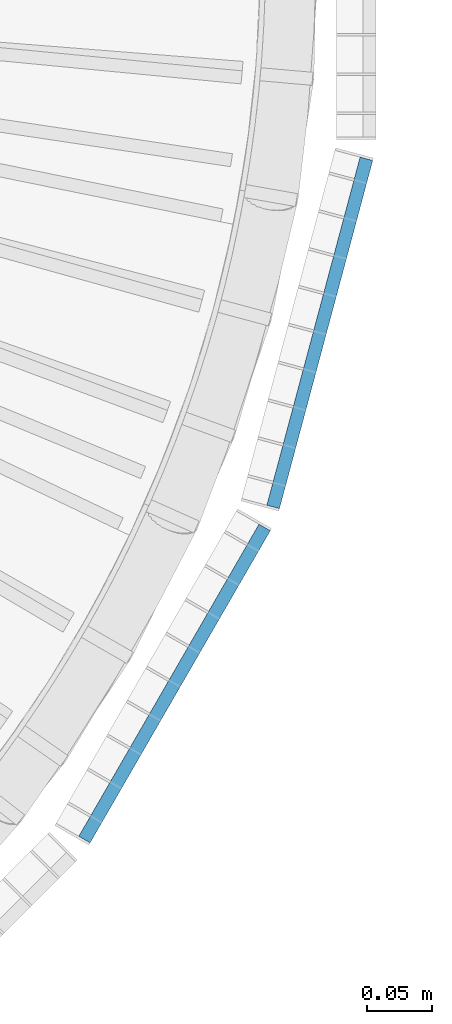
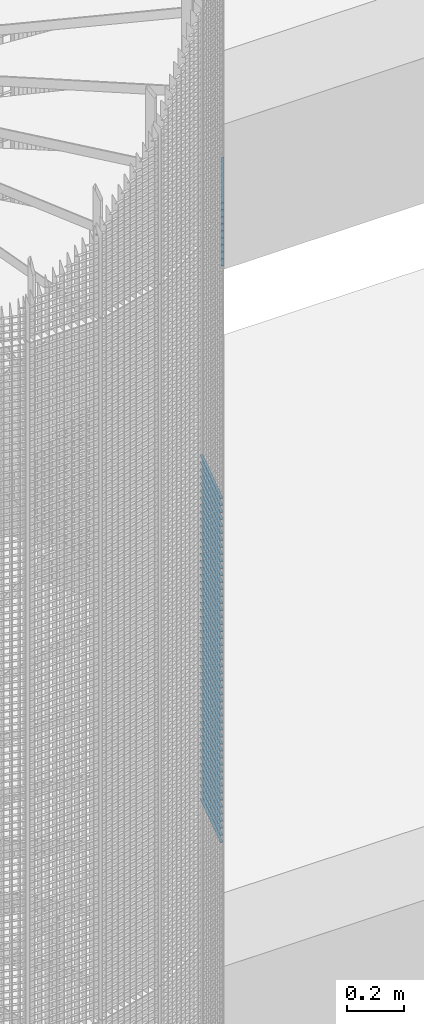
# One storey, part 234 of 1148: 60 beams, 2 elements without a shape of their own.
"""IFC2X3 building model written with IfcOpenShell, lengths in millimetres."""

from ifc_helpers import new_model, si_unit, frame, origin_with_axes, origin_2d_with_axis, place, context, subcontext, project, spatial, rectangle, extrude, material, type_object, element, aggregate, save


model = new_model("IFC2X3")

# Units and contexts
model_context = context("Model", 3, precision=1e-05, world=origin_with_axes())
body_context = subcontext(model_context, "Body", "Model", "MODEL_VIEW")
ifc_project = project(units=[si_unit("LENGTHUNIT", "METRE", prefix="MILLI"), si_unit("AREAUNIT", "SQUARE_METRE"), si_unit("VOLUMEUNIT", "CUBIC_METRE"), si_unit("MASSUNIT", "GRAM", prefix="KILO"), si_unit("TIMEUNIT", "SECOND"), si_unit("PLANEANGLEUNIT", "RADIAN"), si_unit("SOLIDANGLEUNIT", "STERADIAN"), si_unit("THERMODYNAMICTEMPERATUREUNIT", "DEGREE_CELSIUS"), si_unit("LUMINOUSINTENSITYUNIT", "LUMEN")], contexts=[model_context])

# Site, building, storey
site_placement = place(None, origin_with_axes())
site = spatial("IfcSite", under=ifc_project, at=site_placement, Name="Undefined", CompositionType="ELEMENT")
building_placement = place(site_placement, origin_with_axes())
building = spatial("IfcBuilding", under=site, at=building_placement, Name="Undefined", CompositionType="ELEMENT")
storey_placement = place(building_placement, origin_with_axes())
storey = spatial("IfcBuildingStorey", under=building, at=storey_placement, Name="Undefined", CompositionType="ELEMENT", Elevation=0.0)

# Assembly, beams
assembly_1_placement = place(storey_placement, origin_with_axes())
assembly_1 = element("IfcElementAssembly", 1, at=assembly_1_placement, inside=storey, Name="BORDURE", AssemblyPlace="NOTDEFINED", PredefinedType="NOTDEFINED")
ifc_material = material(Name="STEEL/S235JR")
beam_type = type_object("IfcBeamType", Name="PL2*10", PredefinedType="NOTDEFINED")
beam_1_placement = place(assembly_1_placement, frame((1039.82309522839, -421.483733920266, 10500.0), z_axis=(0.965925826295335, -0.258819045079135, 0.0), x_axis=(0.258819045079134, 0.965925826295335, 0.0)))
beam_1 = element("IfcBeam", 2, at=beam_1_placement, type_object=beam_type, material=ifc_material, Name="ENTRETOISE", context=body_context, shape_type="SweptSolid", body=[
    extrude(rectangle(XDim=2.0, YDim=10.0, at=origin_2d_with_axis()), frame((275.999999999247, 9.09494701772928e-13, 1.53210777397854e-14), z_axis=(-1.0, 0.0, 0.0), x_axis=(0.0, -1.0, 0.0)), (0.0, 0.0, 1.0), 276.0),
])
beam_2_placement = place(assembly_1_placement, frame((1039.82309522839, -421.483733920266, 10470.0), z_axis=(0.965925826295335, -0.258819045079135, 0.0), x_axis=(0.258819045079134, 0.965925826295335, 0.0)))
beam_2 = element("IfcBeam", 3, at=beam_2_placement, type_object=beam_type, material=ifc_material, Name="ENTRETOISE", context=body_context, shape_type="SweptSolid", body=[
    extrude(rectangle(XDim=2.0, YDim=10.0, at=origin_2d_with_axis()), frame((275.999999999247, 9.09494701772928e-13, 1.53210777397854e-14), z_axis=(-1.0, 0.0, 0.0), x_axis=(0.0, -1.0, 0.0)), (0.0, 0.0, 1.0), 276.0),
])
beam_3_placement = place(assembly_1_placement, frame((1039.82309522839, -421.483733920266, 10440.0), z_axis=(0.965925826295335, -0.258819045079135, 0.0), x_axis=(0.258819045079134, 0.965925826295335, 0.0)))
beam_3 = element("IfcBeam", 4, at=beam_3_placement, type_object=beam_type, material=ifc_material, Name="ENTRETOISE", context=body_context, shape_type="SweptSolid", body=[
    extrude(rectangle(XDim=2.0, YDim=10.0, at=origin_2d_with_axis()), frame((275.999999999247, 9.09494701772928e-13, 1.53210777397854e-14), z_axis=(-1.0, 0.0, 0.0), x_axis=(0.0, -1.0, 0.0)), (0.0, 0.0, 1.0), 276.0),
])
beam_4_placement = place(assembly_1_placement, frame((1039.82309522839, -421.483733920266, 10410.0), z_axis=(0.965925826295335, -0.258819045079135, 0.0), x_axis=(0.258819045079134, 0.965925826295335, 0.0)))
beam_4 = element("IfcBeam", 5, at=beam_4_placement, type_object=beam_type, material=ifc_material, Name="ENTRETOISE", context=body_context, shape_type="SweptSolid", body=[
    extrude(rectangle(XDim=2.0, YDim=10.0, at=origin_2d_with_axis()), frame((275.999999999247, 9.09494701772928e-13, 1.53210777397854e-14), z_axis=(-1.0, 0.0, 0.0), x_axis=(0.0, -1.0, 0.0)), (0.0, 0.0, 1.0), 276.0),
])
beam_5_placement = place(assembly_1_placement, frame((1039.82309522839, -421.483733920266, 10380.0), z_axis=(0.965925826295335, -0.258819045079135, 0.0), x_axis=(0.258819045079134, 0.965925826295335, 0.0)))
beam_5 = element("IfcBeam", 6, at=beam_5_placement, type_object=beam_type, material=ifc_material, Name="ENTRETOISE", context=body_context, shape_type="SweptSolid", body=[
    extrude(rectangle(XDim=2.0, YDim=10.0, at=origin_2d_with_axis()), frame((275.999999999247, 9.09494701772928e-13, 1.53210777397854e-14), z_axis=(-1.0, 0.0, 0.0), x_axis=(0.0, -1.0, 0.0)), (0.0, 0.0, 1.0), 276.0),
])
beam_6_placement = place(assembly_1_placement, frame((1039.82309522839, -421.483733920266, 10350.0), z_axis=(0.965925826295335, -0.258819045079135, 0.0), x_axis=(0.258819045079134, 0.965925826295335, 0.0)))
beam_6 = element("IfcBeam", 7, at=beam_6_placement, type_object=beam_type, material=ifc_material, Name="ENTRETOISE", context=body_context, shape_type="SweptSolid", body=[
    extrude(rectangle(XDim=2.0, YDim=10.0, at=origin_2d_with_axis()), frame((275.999999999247, 9.09494701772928e-13, 1.53210777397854e-14), z_axis=(-1.0, 0.0, 0.0), x_axis=(0.0, -1.0, 0.0)), (0.0, 0.0, 1.0), 276.0),
])
beam_7_placement = place(assembly_1_placement, frame((1039.82309522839, -421.483733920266, 10320.0), z_axis=(0.965925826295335, -0.258819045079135, 0.0), x_axis=(0.258819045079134, 0.965925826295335, 0.0)))
beam_7 = element("IfcBeam", 8, at=beam_7_placement, type_object=beam_type, material=ifc_material, Name="ENTRETOISE", context=body_context, shape_type="SweptSolid", body=[
    extrude(rectangle(XDim=2.0, YDim=10.0, at=origin_2d_with_axis()), frame((275.999999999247, 9.09494701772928e-13, 1.53210777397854e-14), z_axis=(-1.0, 0.0, 0.0), x_axis=(0.0, -1.0, 0.0)), (0.0, 0.0, 1.0), 276.0),
])
beam_8_placement = place(assembly_1_placement, frame((1039.82309522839, -421.483733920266, 10290.0), z_axis=(0.965925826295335, -0.258819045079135, 0.0), x_axis=(0.258819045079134, 0.965925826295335, 0.0)))
beam_8 = element("IfcBeam", 9, at=beam_8_placement, type_object=beam_type, material=ifc_material, Name="ENTRETOISE", context=body_context, shape_type="SweptSolid", body=[
    extrude(rectangle(XDim=2.0, YDim=10.0, at=origin_2d_with_axis()), frame((275.999999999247, 9.09494701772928e-13, 1.53210777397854e-14), z_axis=(-1.0, 0.0, 0.0), x_axis=(0.0, -1.0, 0.0)), (0.0, 0.0, 1.0), 276.0),
])
beam_9_placement = place(assembly_1_placement, frame((1039.82309522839, -421.483733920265, 10260.0), z_axis=(0.965925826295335, -0.258819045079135, 0.0), x_axis=(0.258819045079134, 0.965925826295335, 0.0)))
beam_9 = element("IfcBeam", 10, at=beam_9_placement, type_object=beam_type, material=ifc_material, Name="ENTRETOISE", context=body_context, shape_type="SweptSolid", body=[
    extrude(rectangle(XDim=2.0, YDim=10.0, at=origin_2d_with_axis()), frame((275.999999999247, 9.09494701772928e-13, 1.53210777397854e-14), z_axis=(-1.0, 0.0, 0.0), x_axis=(0.0, -1.0, 0.0)), (0.0, 0.0, 1.0), 276.0),
])
beam_10_placement = place(assembly_1_placement, frame((1039.82309522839, -421.483733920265, 10230.0), z_axis=(0.965925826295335, -0.258819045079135, 0.0), x_axis=(0.258819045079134, 0.965925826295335, 0.0)))
beam_10 = element("IfcBeam", 11, at=beam_10_placement, type_object=beam_type, material=ifc_material, Name="ENTRETOISE", context=body_context, shape_type="SweptSolid", body=[
    extrude(rectangle(XDim=2.0, YDim=10.0, at=origin_2d_with_axis()), frame((275.999999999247, 9.09494701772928e-13, 1.53210777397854e-14), z_axis=(-1.0, 0.0, 0.0), x_axis=(0.0, -1.0, 0.0)), (0.0, 0.0, 1.0), 276.0),
])
beam_11_placement = place(assembly_1_placement, frame((1039.82309522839, -421.483733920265, 10200.0), z_axis=(0.965925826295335, -0.258819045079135, 0.0), x_axis=(0.258819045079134, 0.965925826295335, 0.0)))
beam_11 = element("IfcBeam", 12, at=beam_11_placement, type_object=beam_type, material=ifc_material, Name="ENTRETOISE", context=body_context, shape_type="SweptSolid", body=[
    extrude(rectangle(XDim=2.0, YDim=10.0, at=origin_2d_with_axis()), frame((275.999999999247, 9.09494701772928e-13, 1.53210777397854e-14), z_axis=(-1.0, 0.0, 0.0), x_axis=(0.0, -1.0, 0.0)), (0.0, 0.0, 1.0), 276.0),
])
beam_12_placement = place(assembly_1_placement, frame((1039.82309522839, -421.483733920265, 10170.0), z_axis=(0.965925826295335, -0.258819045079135, 0.0), x_axis=(0.258819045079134, 0.965925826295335, 0.0)))
beam_12 = element("IfcBeam", 13, at=beam_12_placement, type_object=beam_type, material=ifc_material, Name="ENTRETOISE", context=body_context, shape_type="SweptSolid", body=[
    extrude(rectangle(XDim=2.0, YDim=10.0, at=origin_2d_with_axis()), frame((275.999999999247, 9.09494701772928e-13, 1.53210777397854e-14), z_axis=(-1.0, 0.0, 0.0), x_axis=(0.0, -1.0, 0.0)), (0.0, 0.0, 1.0), 276.0),
])
beam_13_placement = place(assembly_1_placement, frame((1039.82309522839, -421.483733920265, 10140.0), z_axis=(0.965925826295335, -0.258819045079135, 0.0), x_axis=(0.258819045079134, 0.965925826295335, 0.0)))
beam_13 = element("IfcBeam", 14, at=beam_13_placement, type_object=beam_type, material=ifc_material, Name="ENTRETOISE", context=body_context, shape_type="SweptSolid", body=[
    extrude(rectangle(XDim=2.0, YDim=10.0, at=origin_2d_with_axis()), frame((275.999999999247, 9.09494701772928e-13, 1.53210777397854e-14), z_axis=(-1.0, 0.0, 0.0), x_axis=(0.0, -1.0, 0.0)), (0.0, 0.0, 1.0), 276.0),
])
beam_14_placement = place(assembly_1_placement, frame((1039.82309522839, -421.483733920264, 9720.0), z_axis=(0.965925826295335, -0.258819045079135, 0.0), x_axis=(0.258819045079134, 0.965925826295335, 0.0)))
beam_14 = element("IfcBeam", 15, at=beam_14_placement, type_object=beam_type, material=ifc_material, Name="ENTRETOISE", context=body_context, shape_type="SweptSolid", body=[
    extrude(rectangle(XDim=2.0, YDim=10.0, at=origin_2d_with_axis()), frame((275.999999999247, 9.09494701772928e-13, 1.53210777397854e-14), z_axis=(-1.0, 0.0, 0.0), x_axis=(0.0, -1.0, 0.0)), (0.0, 0.0, 1.0), 276.0),
])
beam_15_placement = place(assembly_1_placement, frame((1039.82309522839, -421.483733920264, 9690.0), z_axis=(0.965925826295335, -0.258819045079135, 0.0), x_axis=(0.258819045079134, 0.965925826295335, 0.0)))
beam_15 = element("IfcBeam", 16, at=beam_15_placement, type_object=beam_type, material=ifc_material, Name="ENTRETOISE", context=body_context, shape_type="SweptSolid", body=[
    extrude(rectangle(XDim=2.0, YDim=10.0, at=origin_2d_with_axis()), frame((275.999999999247, 9.09494701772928e-13, 1.53210777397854e-14), z_axis=(-1.0, 0.0, 0.0), x_axis=(0.0, -1.0, 0.0)), (0.0, 0.0, 1.0), 276.0),
])
beam_16_placement = place(assembly_1_placement, frame((1039.82309522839, -421.483733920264, 9750.0), z_axis=(0.965925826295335, -0.258819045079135, 0.0), x_axis=(0.258819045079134, 0.965925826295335, 0.0)))
beam_16 = element("IfcBeam", 17, at=beam_16_placement, type_object=beam_type, material=ifc_material, Name="ENTRETOISE", context=body_context, shape_type="SweptSolid", body=[
    extrude(rectangle(XDim=2.0, YDim=10.0, at=origin_2d_with_axis()), frame((275.999999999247, 9.09494701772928e-13, 1.53210777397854e-14), z_axis=(-1.0, 0.0, 0.0), x_axis=(0.0, -1.0, 0.0)), (0.0, 0.0, 1.0), 276.0),
])
beam_17_placement = place(assembly_1_placement, frame((1039.82309522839, -421.483733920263, 9660.0), z_axis=(0.965925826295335, -0.258819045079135, 0.0), x_axis=(0.258819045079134, 0.965925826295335, 0.0)))
beam_17 = element("IfcBeam", 18, at=beam_17_placement, type_object=beam_type, material=ifc_material, Name="ENTRETOISE", context=body_context, shape_type="SweptSolid", body=[
    extrude(rectangle(XDim=2.0, YDim=10.0, at=origin_2d_with_axis()), frame((275.999999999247, 9.09494701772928e-13, 1.53210777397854e-14), z_axis=(-1.0, 0.0, 0.0), x_axis=(0.0, -1.0, 0.0)), (0.0, 0.0, 1.0), 276.0),
])
beam_18_placement = place(assembly_1_placement, frame((1039.82309522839, -421.483733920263, 9630.0), z_axis=(0.965925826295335, -0.258819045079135, 0.0), x_axis=(0.258819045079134, 0.965925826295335, 0.0)))
beam_18 = element("IfcBeam", 19, at=beam_18_placement, type_object=beam_type, material=ifc_material, Name="ENTRETOISE", context=body_context, shape_type="SweptSolid", body=[
    extrude(rectangle(XDim=2.0, YDim=10.0, at=origin_2d_with_axis()), frame((275.999999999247, 9.09494701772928e-13, 1.53210777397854e-14), z_axis=(-1.0, 0.0, 0.0), x_axis=(0.0, -1.0, 0.0)), (0.0, 0.0, 1.0), 276.0),
])
beam_19_placement = place(assembly_1_placement, frame((1039.82309522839, -421.483733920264, 9780.0), z_axis=(0.965925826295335, -0.258819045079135, 0.0), x_axis=(0.258819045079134, 0.965925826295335, 0.0)))
beam_19 = element("IfcBeam", 20, at=beam_19_placement, type_object=beam_type, material=ifc_material, Name="ENTRETOISE", context=body_context, shape_type="SweptSolid", body=[
    extrude(rectangle(XDim=2.0, YDim=10.0, at=origin_2d_with_axis()), frame((275.999999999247, 9.09494701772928e-13, 1.53210777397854e-14), z_axis=(-1.0, 0.0, 0.0), x_axis=(0.0, -1.0, 0.0)), (0.0, 0.0, 1.0), 276.0),
])
beam_20_placement = place(assembly_1_placement, frame((1039.82309522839, -421.483733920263, 9600.0), z_axis=(0.965925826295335, -0.258819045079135, 0.0), x_axis=(0.258819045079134, 0.965925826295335, 0.0)))
beam_20 = element("IfcBeam", 21, at=beam_20_placement, type_object=beam_type, material=ifc_material, Name="ENTRETOISE", context=body_context, shape_type="SweptSolid", body=[
    extrude(rectangle(XDim=2.0, YDim=10.0, at=origin_2d_with_axis()), frame((275.999999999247, 9.09494701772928e-13, 1.53210777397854e-14), z_axis=(-1.0, 0.0, 0.0), x_axis=(0.0, -1.0, 0.0)), (0.0, 0.0, 1.0), 276.0),
])
beam_21_placement = place(assembly_1_placement, frame((1039.82309522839, -421.483733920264, 9810.0), z_axis=(0.965925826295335, -0.258819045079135, 0.0), x_axis=(0.258819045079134, 0.965925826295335, 0.0)))
beam_21 = element("IfcBeam", 22, at=beam_21_placement, type_object=beam_type, material=ifc_material, Name="ENTRETOISE", context=body_context, shape_type="SweptSolid", body=[
    extrude(rectangle(XDim=2.0, YDim=10.0, at=origin_2d_with_axis()), frame((275.999999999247, 9.09494701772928e-13, 1.53210777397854e-14), z_axis=(-1.0, 0.0, 0.0), x_axis=(0.0, -1.0, 0.0)), (0.0, 0.0, 1.0), 276.0),
])
beam_22_placement = place(assembly_1_placement, frame((1039.82309522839, -421.483733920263, 9570.0), z_axis=(0.965925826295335, -0.258819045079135, 0.0), x_axis=(0.258819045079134, 0.965925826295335, 0.0)))
beam_22 = element("IfcBeam", 23, at=beam_22_placement, type_object=beam_type, material=ifc_material, Name="ENTRETOISE", context=body_context, shape_type="SweptSolid", body=[
    extrude(rectangle(XDim=2.0, YDim=10.0, at=origin_2d_with_axis()), frame((275.999999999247, 9.09494701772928e-13, 1.53210777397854e-14), z_axis=(-1.0, 0.0, 0.0), x_axis=(0.0, -1.0, 0.0)), (0.0, 0.0, 1.0), 276.0),
])
beam_23_placement = place(assembly_1_placement, frame((1039.82309522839, -421.483733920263, 9540.0), z_axis=(0.965925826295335, -0.258819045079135, 0.0), x_axis=(0.258819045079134, 0.965925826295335, 0.0)))
beam_23 = element("IfcBeam", 24, at=beam_23_placement, type_object=beam_type, material=ifc_material, Name="ENTRETOISE", context=body_context, shape_type="SweptSolid", body=[
    extrude(rectangle(XDim=2.0, YDim=10.0, at=origin_2d_with_axis()), frame((275.999999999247, 9.09494701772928e-13, 1.53210777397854e-14), z_axis=(-1.0, 0.0, 0.0), x_axis=(0.0, -1.0, 0.0)), (0.0, 0.0, 1.0), 276.0),
])
beam_24_placement = place(assembly_1_placement, frame((1039.82309522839, -421.483733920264, 9840.0), z_axis=(0.965925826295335, -0.258819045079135, 0.0), x_axis=(0.258819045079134, 0.965925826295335, 0.0)))
beam_24 = element("IfcBeam", 25, at=beam_24_placement, type_object=beam_type, material=ifc_material, Name="ENTRETOISE", context=body_context, shape_type="SweptSolid", body=[
    extrude(rectangle(XDim=2.0, YDim=10.0, at=origin_2d_with_axis()), frame((275.999999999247, 9.09494701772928e-13, 1.53210777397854e-14), z_axis=(-1.0, 0.0, 0.0), x_axis=(0.0, -1.0, 0.0)), (0.0, 0.0, 1.0), 276.0),
])
beam_25_placement = place(assembly_1_placement, frame((1039.82309522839, -421.483733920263, 9510.0), z_axis=(0.965925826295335, -0.258819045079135, 0.0), x_axis=(0.258819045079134, 0.965925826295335, 0.0)))
beam_25 = element("IfcBeam", 26, at=beam_25_placement, type_object=beam_type, material=ifc_material, Name="ENTRETOISE", context=body_context, shape_type="SweptSolid", body=[
    extrude(rectangle(XDim=2.0, YDim=10.0, at=origin_2d_with_axis()), frame((275.999999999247, 9.09494701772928e-13, 1.53210777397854e-14), z_axis=(-1.0, 0.0, 0.0), x_axis=(0.0, -1.0, 0.0)), (0.0, 0.0, 1.0), 276.0),
])
beam_26_placement = place(assembly_1_placement, frame((1039.82309522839, -421.483733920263, 9480.0), z_axis=(0.965925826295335, -0.258819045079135, 0.0), x_axis=(0.258819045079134, 0.965925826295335, 0.0)))
beam_26 = element("IfcBeam", 27, at=beam_26_placement, type_object=beam_type, material=ifc_material, Name="ENTRETOISE", context=body_context, shape_type="SweptSolid", body=[
    extrude(rectangle(XDim=2.0, YDim=10.0, at=origin_2d_with_axis()), frame((275.999999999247, 9.09494701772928e-13, 1.53210777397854e-14), z_axis=(-1.0, 0.0, 0.0), x_axis=(0.0, -1.0, 0.0)), (0.0, 0.0, 1.0), 276.0),
])
beam_27_placement = place(assembly_1_placement, frame((1039.82309522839, -421.483733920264, 9870.0), z_axis=(0.965925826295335, -0.258819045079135, 0.0), x_axis=(0.258819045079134, 0.965925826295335, 0.0)))
beam_27 = element("IfcBeam", 28, at=beam_27_placement, type_object=beam_type, material=ifc_material, Name="ENTRETOISE", context=body_context, shape_type="SweptSolid", body=[
    extrude(rectangle(XDim=2.0, YDim=10.0, at=origin_2d_with_axis()), frame((275.999999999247, 9.09494701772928e-13, 1.53210777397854e-14), z_axis=(-1.0, 0.0, 0.0), x_axis=(0.0, -1.0, 0.0)), (0.0, 0.0, 1.0), 276.0),
])
beam_28_placement = place(assembly_1_placement, frame((1039.82309522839, -421.483733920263, 9450.0), z_axis=(0.965925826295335, -0.258819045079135, 0.0), x_axis=(0.258819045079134, 0.965925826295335, 0.0)))
beam_28 = element("IfcBeam", 29, at=beam_28_placement, type_object=beam_type, material=ifc_material, Name="ENTRETOISE", context=body_context, shape_type="SweptSolid", body=[
    extrude(rectangle(XDim=2.0, YDim=10.0, at=origin_2d_with_axis()), frame((275.999999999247, 9.09494701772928e-13, 1.53210777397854e-14), z_axis=(-1.0, 0.0, 0.0), x_axis=(0.0, -1.0, 0.0)), (0.0, 0.0, 1.0), 276.0),
])
beam_29_placement = place(assembly_1_placement, frame((1039.82309522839, -421.483733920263, 9420.0), z_axis=(0.965925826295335, -0.258819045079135, 0.0), x_axis=(0.258819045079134, 0.965925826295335, 0.0)))
beam_29 = element("IfcBeam", 30, at=beam_29_placement, type_object=beam_type, material=ifc_material, Name="ENTRETOISE", context=body_context, shape_type="SweptSolid", body=[
    extrude(rectangle(XDim=2.0, YDim=10.0, at=origin_2d_with_axis()), frame((275.999999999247, 9.09494701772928e-13, 1.53210777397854e-14), z_axis=(-1.0, 0.0, 0.0), x_axis=(0.0, -1.0, 0.0)), (0.0, 0.0, 1.0), 276.0),
])
beam_30_placement = place(assembly_1_placement, frame((1039.82309522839, -421.483733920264, 9900.0), z_axis=(0.965925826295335, -0.258819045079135, 0.0), x_axis=(0.258819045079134, 0.965925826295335, 0.0)))
beam_30 = element("IfcBeam", 31, at=beam_30_placement, type_object=beam_type, material=ifc_material, Name="ENTRETOISE", context=body_context, shape_type="SweptSolid", body=[
    extrude(rectangle(XDim=2.0, YDim=10.0, at=origin_2d_with_axis()), frame((275.999999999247, 9.09494701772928e-13, 1.53210777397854e-14), z_axis=(-1.0, 0.0, 0.0), x_axis=(0.0, -1.0, 0.0)), (0.0, 0.0, 1.0), 276.0),
])
beam_31_placement = place(assembly_1_placement, frame((1039.82309522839, -421.483733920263, 9390.0), z_axis=(0.965925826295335, -0.258819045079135, 0.0), x_axis=(0.258819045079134, 0.965925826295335, 0.0)))
beam_31 = element("IfcBeam", 32, at=beam_31_placement, type_object=beam_type, material=ifc_material, Name="ENTRETOISE", context=body_context, shape_type="SweptSolid", body=[
    extrude(rectangle(XDim=2.0, YDim=10.0, at=origin_2d_with_axis()), frame((275.999999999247, 9.09494701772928e-13, 1.53210777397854e-14), z_axis=(-1.0, 0.0, 0.0), x_axis=(0.0, -1.0, 0.0)), (0.0, 0.0, 1.0), 276.0),
])
beam_32_placement = place(assembly_1_placement, frame((1039.82309522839, -421.483733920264, 9930.0), z_axis=(0.965925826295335, -0.258819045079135, 0.0), x_axis=(0.258819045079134, 0.965925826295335, 0.0)))
beam_32 = element("IfcBeam", 33, at=beam_32_placement, type_object=beam_type, material=ifc_material, Name="ENTRETOISE", context=body_context, shape_type="SweptSolid", body=[
    extrude(rectangle(XDim=2.0, YDim=10.0, at=origin_2d_with_axis()), frame((275.999999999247, 9.09494701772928e-13, 1.53210777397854e-14), z_axis=(-1.0, 0.0, 0.0), x_axis=(0.0, -1.0, 0.0)), (0.0, 0.0, 1.0), 276.0),
])
beam_33_placement = place(assembly_1_placement, frame((1039.82309522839, -421.483733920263, 9360.0), z_axis=(0.965925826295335, -0.258819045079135, 0.0), x_axis=(0.258819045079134, 0.965925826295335, 0.0)))
beam_33 = element("IfcBeam", 34, at=beam_33_placement, type_object=beam_type, material=ifc_material, Name="ENTRETOISE", context=body_context, shape_type="SweptSolid", body=[
    extrude(rectangle(XDim=2.0, YDim=10.0, at=origin_2d_with_axis()), frame((275.999999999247, 9.09494701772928e-13, 1.53210777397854e-14), z_axis=(-1.0, 0.0, 0.0), x_axis=(0.0, -1.0, 0.0)), (0.0, 0.0, 1.0), 276.0),
])
beam_34_placement = place(assembly_1_placement, frame((1039.82309522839, -421.483733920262, 9330.0), z_axis=(0.965925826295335, -0.258819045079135, 0.0), x_axis=(0.258819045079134, 0.965925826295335, 0.0)))
beam_34 = element("IfcBeam", 35, at=beam_34_placement, type_object=beam_type, material=ifc_material, Name="ENTRETOISE", context=body_context, shape_type="SweptSolid", body=[
    extrude(rectangle(XDim=2.0, YDim=10.0, at=origin_2d_with_axis()), frame((275.999999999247, 9.09494701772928e-13, 1.53210777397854e-14), z_axis=(-1.0, 0.0, 0.0), x_axis=(0.0, -1.0, 0.0)), (0.0, 0.0, 1.0), 276.0),
])
beam_35_placement = place(assembly_1_placement, frame((1039.82309522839, -421.483733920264, 9960.0), z_axis=(0.965925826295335, -0.258819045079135, 0.0), x_axis=(0.258819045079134, 0.965925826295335, 0.0)))
beam_35 = element("IfcBeam", 36, at=beam_35_placement, type_object=beam_type, material=ifc_material, Name="ENTRETOISE", context=body_context, shape_type="SweptSolid", body=[
    extrude(rectangle(XDim=2.0, YDim=10.0, at=origin_2d_with_axis()), frame((275.999999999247, 9.09494701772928e-13, 1.53210777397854e-14), z_axis=(-1.0, 0.0, 0.0), x_axis=(0.0, -1.0, 0.0)), (0.0, 0.0, 1.0), 276.0),
])
beam_36_placement = place(assembly_1_placement, frame((1039.82309522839, -421.483733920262, 9300.0), z_axis=(0.965925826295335, -0.258819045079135, 0.0), x_axis=(0.258819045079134, 0.965925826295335, 0.0)))
beam_36 = element("IfcBeam", 37, at=beam_36_placement, type_object=beam_type, material=ifc_material, Name="ENTRETOISE", context=body_context, shape_type="SweptSolid", body=[
    extrude(rectangle(XDim=2.0, YDim=10.0, at=origin_2d_with_axis()), frame((275.999999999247, 9.09494701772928e-13, 1.53210777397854e-14), z_axis=(-1.0, 0.0, 0.0), x_axis=(0.0, -1.0, 0.0)), (0.0, 0.0, 1.0), 276.0),
])
beam_37_placement = place(assembly_1_placement, frame((1039.82309522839, -421.483733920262, 9270.0), z_axis=(0.965925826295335, -0.258819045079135, 0.0), x_axis=(0.258819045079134, 0.965925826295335, 0.0)))
beam_37 = element("IfcBeam", 38, at=beam_37_placement, type_object=beam_type, material=ifc_material, Name="ENTRETOISE", context=body_context, shape_type="SweptSolid", body=[
    extrude(rectangle(XDim=2.0, YDim=10.0, at=origin_2d_with_axis()), frame((275.999999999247, 9.09494701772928e-13, 1.53210777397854e-14), z_axis=(-1.0, 0.0, 0.0), x_axis=(0.0, -1.0, 0.0)), (0.0, 0.0, 1.0), 276.0),
])
beam_38_placement = place(assembly_1_placement, frame((1039.82309522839, -421.483733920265, 9990.0), z_axis=(0.965925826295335, -0.258819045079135, 0.0), x_axis=(0.258819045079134, 0.965925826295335, 0.0)))
beam_38 = element("IfcBeam", 39, at=beam_38_placement, type_object=beam_type, material=ifc_material, Name="ENTRETOISE", context=body_context, shape_type="SweptSolid", body=[
    extrude(rectangle(XDim=2.0, YDim=10.0, at=origin_2d_with_axis()), frame((275.999999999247, 9.09494701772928e-13, 1.53210777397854e-14), z_axis=(-1.0, 0.0, 0.0), x_axis=(0.0, -1.0, 0.0)), (0.0, 0.0, 1.0), 276.0),
])
beam_39_placement = place(assembly_1_placement, frame((1039.82309522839, -421.483733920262, 9240.0), z_axis=(0.965925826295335, -0.258819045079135, 0.0), x_axis=(0.258819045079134, 0.965925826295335, 0.0)))
beam_39 = element("IfcBeam", 40, at=beam_39_placement, type_object=beam_type, material=ifc_material, Name="ENTRETOISE", context=body_context, shape_type="SweptSolid", body=[
    extrude(rectangle(XDim=2.0, YDim=10.0, at=origin_2d_with_axis()), frame((275.999999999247, 9.09494701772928e-13, 1.53210777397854e-14), z_axis=(-1.0, 0.0, 0.0), x_axis=(0.0, -1.0, 0.0)), (0.0, 0.0, 1.0), 276.0),
])
beam_40_placement = place(assembly_1_placement, frame((1039.82309522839, -421.483733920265, 10020.0), z_axis=(0.965925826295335, -0.258819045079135, 0.0), x_axis=(0.258819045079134, 0.965925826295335, 0.0)))
beam_40 = element("IfcBeam", 41, at=beam_40_placement, type_object=beam_type, material=ifc_material, Name="ENTRETOISE", context=body_context, shape_type="SweptSolid", body=[
    extrude(rectangle(XDim=2.0, YDim=10.0, at=origin_2d_with_axis()), frame((275.999999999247, 9.09494701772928e-13, 1.53210777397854e-14), z_axis=(-1.0, 0.0, 0.0), x_axis=(0.0, -1.0, 0.0)), (0.0, 0.0, 1.0), 276.0),
])
beam_41_placement = place(assembly_1_placement, frame((1039.82309522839, -421.483733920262, 9210.0), z_axis=(0.965925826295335, -0.258819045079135, 0.0), x_axis=(0.258819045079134, 0.965925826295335, 0.0)))
beam_41 = element("IfcBeam", 42, at=beam_41_placement, type_object=beam_type, material=ifc_material, Name="ENTRETOISE", context=body_context, shape_type="SweptSolid", body=[
    extrude(rectangle(XDim=2.0, YDim=10.0, at=origin_2d_with_axis()), frame((275.999999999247, 9.09494701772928e-13, 1.53210777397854e-14), z_axis=(-1.0, 0.0, 0.0), x_axis=(0.0, -1.0, 0.0)), (0.0, 0.0, 1.0), 276.0),
])
beam_42_placement = place(assembly_1_placement, frame((1039.82309522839, -421.483733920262, 9180.0), z_axis=(0.965925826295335, -0.258819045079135, 0.0), x_axis=(0.258819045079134, 0.965925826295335, 0.0)))
beam_42 = element("IfcBeam", 43, at=beam_42_placement, type_object=beam_type, material=ifc_material, Name="ENTRETOISE", context=body_context, shape_type="SweptSolid", body=[
    extrude(rectangle(XDim=2.0, YDim=10.0, at=origin_2d_with_axis()), frame((275.999999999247, 9.09494701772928e-13, 1.53210777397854e-14), z_axis=(-1.0, 0.0, 0.0), x_axis=(0.0, -1.0, 0.0)), (0.0, 0.0, 1.0), 276.0),
])
beam_43_placement = place(assembly_1_placement, frame((1039.82309522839, -421.483733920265, 10050.0), z_axis=(0.965925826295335, -0.258819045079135, 0.0), x_axis=(0.258819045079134, 0.965925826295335, 0.0)))
beam_43 = element("IfcBeam", 44, at=beam_43_placement, type_object=beam_type, material=ifc_material, Name="ENTRETOISE", context=body_context, shape_type="SweptSolid", body=[
    extrude(rectangle(XDim=2.0, YDim=10.0, at=origin_2d_with_axis()), frame((275.999999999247, 9.09494701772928e-13, 1.53210777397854e-14), z_axis=(-1.0, 0.0, 0.0), x_axis=(0.0, -1.0, 0.0)), (0.0, 0.0, 1.0), 276.0),
])
beam_44_placement = place(assembly_1_placement, frame((1039.82309522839, -421.483733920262, 9150.0), z_axis=(0.965925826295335, -0.258819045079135, 0.0), x_axis=(0.258819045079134, 0.965925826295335, 0.0)))
beam_44 = element("IfcBeam", 45, at=beam_44_placement, type_object=beam_type, material=ifc_material, Name="ENTRETOISE", context=body_context, shape_type="SweptSolid", body=[
    extrude(rectangle(XDim=2.0, YDim=10.0, at=origin_2d_with_axis()), frame((275.999999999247, 9.09494701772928e-13, 1.53210777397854e-14), z_axis=(-1.0, 0.0, 0.0), x_axis=(0.0, -1.0, 0.0)), (0.0, 0.0, 1.0), 276.0),
])
beam_45_placement = place(assembly_1_placement, frame((1039.82309522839, -421.483733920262, 9120.0), z_axis=(0.965925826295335, -0.258819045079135, 0.0), x_axis=(0.258819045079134, 0.965925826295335, 0.0)))
beam_45 = element("IfcBeam", 46, at=beam_45_placement, type_object=beam_type, material=ifc_material, Name="ENTRETOISE", context=body_context, shape_type="SweptSolid", body=[
    extrude(rectangle(XDim=2.0, YDim=10.0, at=origin_2d_with_axis()), frame((275.999999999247, 9.09494701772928e-13, 1.53210777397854e-14), z_axis=(-1.0, 0.0, 0.0), x_axis=(0.0, -1.0, 0.0)), (0.0, 0.0, 1.0), 276.0),
])
beam_46_placement = place(assembly_1_placement, frame((1039.82309522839, -421.483733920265, 10080.0), z_axis=(0.965925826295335, -0.258819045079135, 0.0), x_axis=(0.258819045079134, 0.965925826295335, 0.0)))
beam_46 = element("IfcBeam", 47, at=beam_46_placement, type_object=beam_type, material=ifc_material, Name="ENTRETOISE", context=body_context, shape_type="SweptSolid", body=[
    extrude(rectangle(XDim=2.0, YDim=10.0, at=origin_2d_with_axis()), frame((275.999999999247, 9.09494701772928e-13, 1.53210777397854e-14), z_axis=(-1.0, 0.0, 0.0), x_axis=(0.0, -1.0, 0.0)), (0.0, 0.0, 1.0), 276.0),
])
beam_47_placement = place(assembly_1_placement, frame((1039.82309522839, -421.483733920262, 9090.0), z_axis=(0.965925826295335, -0.258819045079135, 0.0), x_axis=(0.258819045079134, 0.965925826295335, 0.0)))
beam_47 = element("IfcBeam", 48, at=beam_47_placement, type_object=beam_type, material=ifc_material, Name="ENTRETOISE", context=body_context, shape_type="SweptSolid", body=[
    extrude(rectangle(XDim=2.0, YDim=10.0, at=origin_2d_with_axis()), frame((275.999999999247, 9.09494701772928e-13, 1.53210777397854e-14), z_axis=(-1.0, 0.0, 0.0), x_axis=(0.0, -1.0, 0.0)), (0.0, 0.0, 1.0), 276.0),
])
beam_48_placement = place(assembly_1_placement, frame((1039.82309522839, -421.483733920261, 9060.0), z_axis=(0.965925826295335, -0.258819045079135, 0.0), x_axis=(0.258819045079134, 0.965925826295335, 0.0)))
beam_48 = element("IfcBeam", 49, at=beam_48_placement, type_object=beam_type, material=ifc_material, Name="ENTRETOISE", context=body_context, shape_type="SweptSolid", body=[
    extrude(rectangle(XDim=2.0, YDim=10.0, at=origin_2d_with_axis()), frame((275.999999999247, 9.09494701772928e-13, 1.53210777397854e-14), z_axis=(-1.0, 0.0, 0.0), x_axis=(0.0, -1.0, 0.0)), (0.0, 0.0, 1.0), 276.0),
])
beam_49_placement = place(assembly_1_placement, frame((1039.82309522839, -421.483733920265, 10110.0), z_axis=(0.965925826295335, -0.258819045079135, 0.0), x_axis=(0.258819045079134, 0.965925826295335, 0.0)))
beam_49 = element("IfcBeam", 50, at=beam_49_placement, type_object=beam_type, material=ifc_material, Name="ENTRETOISE", context=body_context, shape_type="SweptSolid", body=[
    extrude(rectangle(XDim=2.0, YDim=10.0, at=origin_2d_with_axis()), frame((275.999999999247, 9.09494701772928e-13, 1.53210777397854e-14), z_axis=(-1.0, 0.0, 0.0), x_axis=(0.0, -1.0, 0.0)), (0.0, 0.0, 1.0), 276.0),
])
beam_50_placement = place(assembly_1_placement, frame((1039.82309522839, -421.48373392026, 9030.0), z_axis=(0.965925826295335, -0.258819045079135, 0.0), x_axis=(0.258819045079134, 0.965925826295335, 0.0)))
beam_50 = element("IfcBeam", 51, at=beam_50_placement, type_object=beam_type, material=ifc_material, Name="ENTRETOISE", context=body_context, shape_type="SweptSolid", body=[
    extrude(rectangle(XDim=2.0, YDim=10.0, at=origin_2d_with_axis()), frame((275.999999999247, 9.09494701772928e-13, 1.53210777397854e-14), z_axis=(-1.0, 0.0, 0.0), x_axis=(0.0, -1.0, 0.0)), (0.0, 0.0, 1.0), 276.0),
])
aggregate(assembly_1, [beam_1, beam_2, beam_3, beam_4, beam_5, beam_6, beam_7, beam_8, beam_9, beam_10, beam_11, beam_12, beam_13, beam_14, beam_15, beam_16, beam_17, beam_18, beam_19, beam_20, beam_21, beam_22, beam_23, beam_24, beam_25, beam_26, beam_27, beam_28, beam_29, beam_30, beam_31, beam_32, beam_33, beam_34, beam_35, beam_36, beam_37, beam_38, beam_39, beam_40, beam_41, beam_42, beam_43, beam_44, beam_45, beam_46, beam_47, beam_48, beam_49, beam_50])

assembly_2_placement = place(storey_placement, origin_with_axes())
assembly_2 = element("IfcElementAssembly", 52, at=assembly_2_placement, inside=storey, Name="BORDURE", AssemblyPlace="NOTDEFINED", PredefinedType="NOTDEFINED")
beam_51_placement = place(assembly_2_placement, frame((895.303964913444, -676.248044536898, 11970.0), z_axis=(0.866025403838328, -0.49999999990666, 0.0), x_axis=(0.49999999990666, 0.866025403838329, 0.0)))
beam_51 = element("IfcBeam", 53, at=beam_51_placement, type_object=beam_type, material=ifc_material, Name="ENTRETOISE", context=body_context, shape_type="SweptSolid", body=[
    extrude(rectangle(XDim=2.0, YDim=10.0, at=origin_2d_with_axis()), frame((275.999999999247, 9.09494701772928e-13, 1.53210777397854e-14), z_axis=(-1.0, 0.0, 0.0), x_axis=(0.0, -1.0, 0.0)), (0.0, 0.0, 1.0), 276.0),
])
beam_52_placement = place(assembly_2_placement, frame((895.303964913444, -676.248044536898, 11940.0), z_axis=(0.866025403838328, -0.49999999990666, 0.0), x_axis=(0.49999999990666, 0.866025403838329, 0.0)))
beam_52 = element("IfcBeam", 54, at=beam_52_placement, type_object=beam_type, material=ifc_material, Name="ENTRETOISE", context=body_context, shape_type="SweptSolid", body=[
    extrude(rectangle(XDim=2.0, YDim=10.0, at=origin_2d_with_axis()), frame((275.999999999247, 9.09494701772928e-13, 1.53210777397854e-14), z_axis=(-1.0, 0.0, 0.0), x_axis=(0.0, -1.0, 0.0)), (0.0, 0.0, 1.0), 276.0),
])
beam_53_placement = place(assembly_2_placement, frame((895.303964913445, -676.248044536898, 11910.0), z_axis=(0.866025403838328, -0.49999999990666, 0.0), x_axis=(0.49999999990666, 0.866025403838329, 0.0)))
beam_53 = element("IfcBeam", 55, at=beam_53_placement, type_object=beam_type, material=ifc_material, Name="ENTRETOISE", context=body_context, shape_type="SweptSolid", body=[
    extrude(rectangle(XDim=2.0, YDim=10.0, at=origin_2d_with_axis()), frame((275.999999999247, 9.09494701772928e-13, 1.53210777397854e-14), z_axis=(-1.0, 0.0, 0.0), x_axis=(0.0, -1.0, 0.0)), (0.0, 0.0, 1.0), 276.0),
])
beam_54_placement = place(assembly_2_placement, frame((895.303964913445, -676.248044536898, 11880.0), z_axis=(0.866025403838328, -0.49999999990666, 0.0), x_axis=(0.49999999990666, 0.866025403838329, 0.0)))
beam_54 = element("IfcBeam", 56, at=beam_54_placement, type_object=beam_type, material=ifc_material, Name="ENTRETOISE", context=body_context, shape_type="SweptSolid", body=[
    extrude(rectangle(XDim=2.0, YDim=10.0, at=origin_2d_with_axis()), frame((275.999999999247, 9.09494701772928e-13, 1.53210777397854e-14), z_axis=(-1.0, 0.0, 0.0), x_axis=(0.0, -1.0, 0.0)), (0.0, 0.0, 1.0), 276.0),
])
beam_55_placement = place(assembly_2_placement, frame((895.303964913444, -676.248044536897, 11850.0), z_axis=(0.866025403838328, -0.49999999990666, 0.0), x_axis=(0.49999999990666, 0.866025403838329, 0.0)))
beam_55 = element("IfcBeam", 57, at=beam_55_placement, type_object=beam_type, material=ifc_material, Name="ENTRETOISE", context=body_context, shape_type="SweptSolid", body=[
    extrude(rectangle(XDim=2.0, YDim=10.0, at=origin_2d_with_axis()), frame((275.999999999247, 9.09494701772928e-13, 1.53210777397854e-14), z_axis=(-1.0, 0.0, 0.0), x_axis=(0.0, -1.0, 0.0)), (0.0, 0.0, 1.0), 276.0),
])
beam_56_placement = place(assembly_2_placement, frame((895.303964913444, -676.248044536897, 11820.0), z_axis=(0.866025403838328, -0.49999999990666, 0.0), x_axis=(0.49999999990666, 0.866025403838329, 0.0)))
beam_56 = element("IfcBeam", 58, at=beam_56_placement, type_object=beam_type, material=ifc_material, Name="ENTRETOISE", context=body_context, shape_type="SweptSolid", body=[
    extrude(rectangle(XDim=2.0, YDim=10.0, at=origin_2d_with_axis()), frame((275.999999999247, 9.09494701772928e-13, 1.53210777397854e-14), z_axis=(-1.0, 0.0, 0.0), x_axis=(0.0, -1.0, 0.0)), (0.0, 0.0, 1.0), 276.0),
])
beam_57_placement = place(assembly_2_placement, frame((895.303964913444, -676.248044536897, 11790.0), z_axis=(0.866025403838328, -0.49999999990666, 0.0), x_axis=(0.49999999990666, 0.866025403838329, 0.0)))
beam_57 = element("IfcBeam", 59, at=beam_57_placement, type_object=beam_type, material=ifc_material, Name="ENTRETOISE", context=body_context, shape_type="SweptSolid", body=[
    extrude(rectangle(XDim=2.0, YDim=10.0, at=origin_2d_with_axis()), frame((275.999999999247, 9.09494701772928e-13, 1.53210777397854e-14), z_axis=(-1.0, 0.0, 0.0), x_axis=(0.0, -1.0, 0.0)), (0.0, 0.0, 1.0), 276.0),
])
beam_58_placement = place(assembly_2_placement, frame((895.303964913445, -676.248044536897, 11760.0), z_axis=(0.866025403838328, -0.49999999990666, 0.0), x_axis=(0.49999999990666, 0.866025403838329, 0.0)))
beam_58 = element("IfcBeam", 60, at=beam_58_placement, type_object=beam_type, material=ifc_material, Name="ENTRETOISE", context=body_context, shape_type="SweptSolid", body=[
    extrude(rectangle(XDim=2.0, YDim=10.0, at=origin_2d_with_axis()), frame((275.999999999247, 9.09494701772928e-13, 1.53210777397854e-14), z_axis=(-1.0, 0.0, 0.0), x_axis=(0.0, -1.0, 0.0)), (0.0, 0.0, 1.0), 276.0),
])
beam_59_placement = place(assembly_2_placement, frame((895.303964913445, -676.248044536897, 11730.0), z_axis=(0.866025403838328, -0.49999999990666, 0.0), x_axis=(0.49999999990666, 0.866025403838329, 0.0)))
beam_59 = element("IfcBeam", 61, at=beam_59_placement, type_object=beam_type, material=ifc_material, Name="ENTRETOISE", context=body_context, shape_type="SweptSolid", body=[
    extrude(rectangle(XDim=2.0, YDim=10.0, at=origin_2d_with_axis()), frame((275.999999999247, 9.09494701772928e-13, 1.53210777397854e-14), z_axis=(-1.0, 0.0, 0.0), x_axis=(0.0, -1.0, 0.0)), (0.0, 0.0, 1.0), 276.0),
])
beam_60_placement = place(assembly_2_placement, frame((895.303964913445, -676.248044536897, 11700.0), z_axis=(0.866025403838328, -0.49999999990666, 0.0), x_axis=(0.49999999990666, 0.866025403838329, 0.0)))
beam_60 = element("IfcBeam", 62, at=beam_60_placement, type_object=beam_type, material=ifc_material, Name="ENTRETOISE", context=body_context, shape_type="SweptSolid", body=[
    extrude(rectangle(XDim=2.0, YDim=10.0, at=origin_2d_with_axis()), frame((275.999999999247, 9.09494701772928e-13, 1.53210777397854e-14), z_axis=(-1.0, 0.0, 0.0), x_axis=(0.0, -1.0, 0.0)), (0.0, 0.0, 1.0), 276.0),
])
aggregate(assembly_2, [beam_51, beam_52, beam_53, beam_54, beam_55, beam_56, beam_57, beam_58, beam_59, beam_60])

save(model, "model.ifc")
